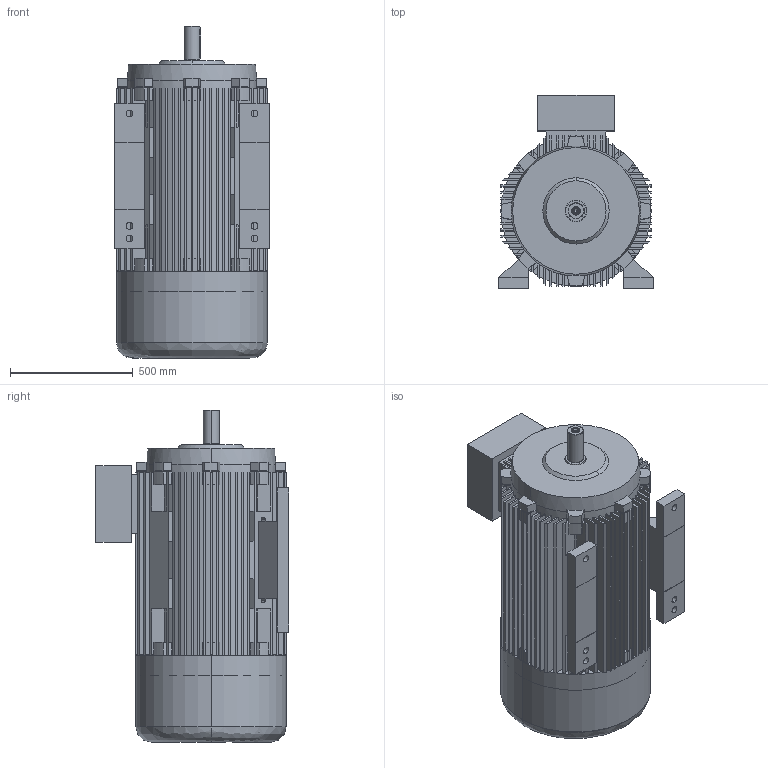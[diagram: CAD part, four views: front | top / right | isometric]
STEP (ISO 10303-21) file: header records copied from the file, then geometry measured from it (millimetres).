
FILE_DESCRIPTION (( 'STEP AP203' ), '1' );
FILE_NAME ('20.18382_A 7AZ 315LX -2 B3 STANDK.STEP', '2018-04-05T12:53:34', ( '' ), ( '' ), 'SwSTEP 2.0', 'SolidWorks 2017', '' );
FILE_SCHEMA (( 'CONFIG_CONTROL_DESIGN' ));
Length unit declared in the file: millimetre
Products named in the file (1): 20.18382_A  7AZ 315LX -2 B3 STANDK
Bounding box: 628 x 785 x 1350 mm (x, y, z)
Volume: 117352059.3 mm3; surface area: 11227611.3 mm2
Topology: 5 solids, 6 shells, 803 faces, 2178 edges, 1445 vertices
Faces by surface type: plane 659, cylinder 111, cone 20, bspline 13
Entity records: 26004 total; most frequent: CARTESIAN_POINT 5370, ORIENTED_EDGE 4352, DIRECTION 4166, EDGE_CURVE 2176, VECTOR 1660, LINE 1660, VERTEX_POINT 1445, AXIS2_PLACEMENT_3D 1253
